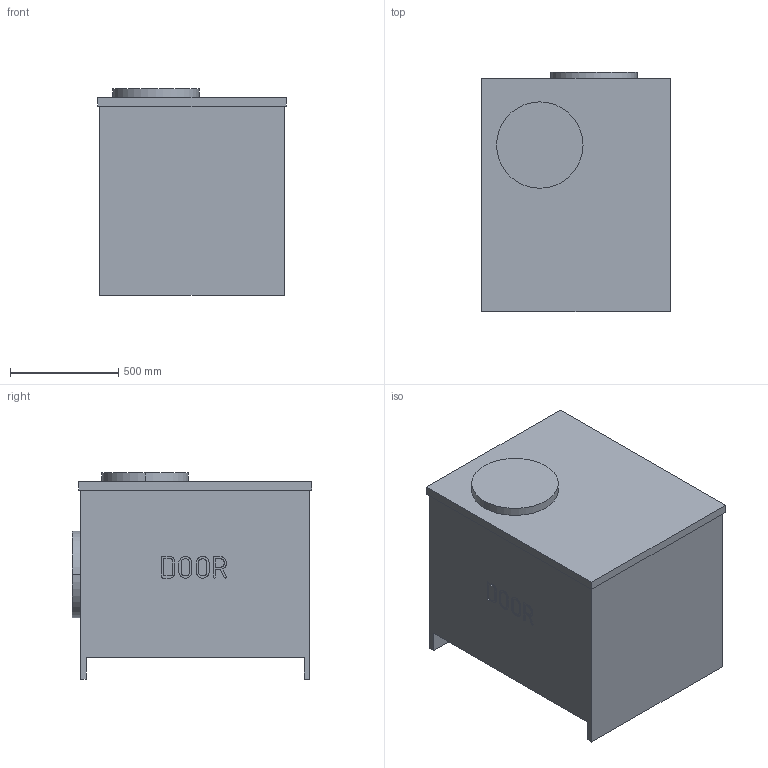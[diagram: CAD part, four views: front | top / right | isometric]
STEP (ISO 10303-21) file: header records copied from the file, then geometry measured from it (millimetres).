
FILE_DESCRIPTION(('STEP AP214'),'1');
FILE_NAME('Soundbox 355_400.stp','2019-11-26T10:19:23',(' '),(' '),'Spatial InterOp 3D',' ',' ');
FILE_SCHEMA(('AUTOMOTIVE_DESIGN { 1 0 10303 214 1 1 1 1 }'));
Length unit declared in the file: metre
Products named in the file (1): Solid1
Bounding box: 873 x 1110 x 955 mm (x, y, z)
Volume: 752720789 mm3; surface area: 5468766.4 mm2
Topology: 1 solids, 1 shells, 87 faces, 222 edges, 148 vertices
Faces by surface type: plane 50, extrusion 33, cylinder 4
Entity records: 2958 total; most frequent: CARTESIAN_POINT 939, ORIENTED_EDGE 444, DIRECTION 307, EDGE_CURVE 222, VECTOR 181, VERTEX_POINT 148, LINE 148, B_SPLINE_CURVE_WITH_KNOTS 99
